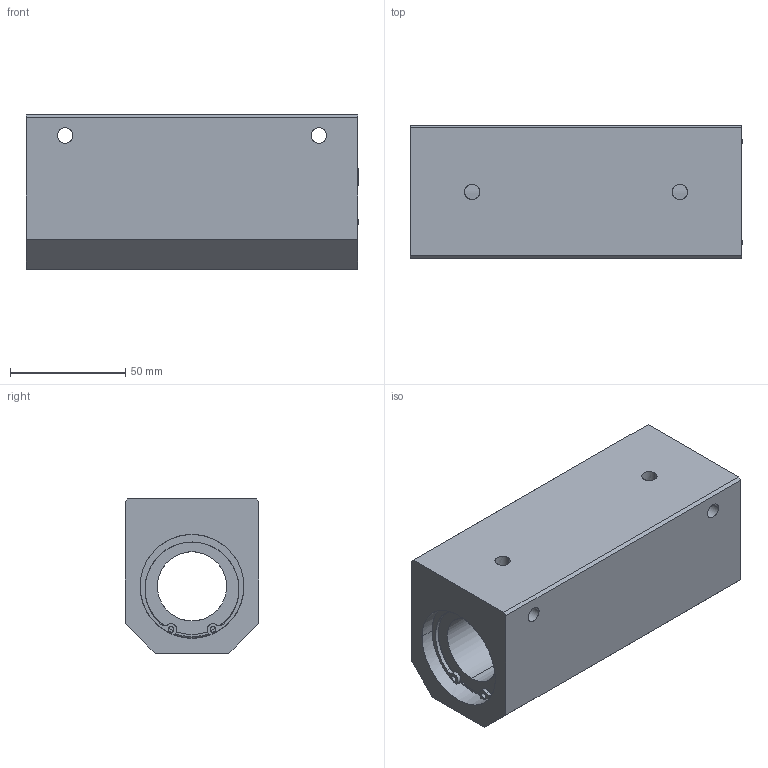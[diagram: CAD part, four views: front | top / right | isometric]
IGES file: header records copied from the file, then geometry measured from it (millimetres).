
Global section: file name: No Iges File Name specified; native system: AutoDesk Inventor R11.0; preprocessor: AutoDesk Inventor Iges Exporter R11.0; author: No Author specified; organization: No Organization specified; date: 20111024.132941; units: millimetre
Bounding box: 144 x 58 x 67 mm (x, y, z)
Surface area: 63919.1 mm2 (no closed solid volume)
Topology: 0 solids, 0 shells, 122 faces, 964 edges, 964 vertices
Faces by surface type: bspline 122
